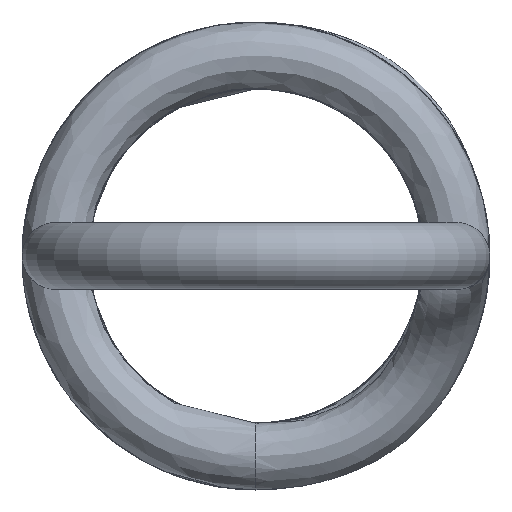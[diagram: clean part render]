
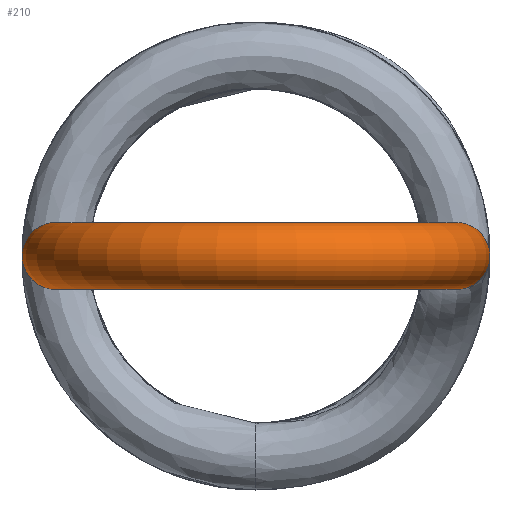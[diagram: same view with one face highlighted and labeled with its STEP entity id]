
A CAD part, front view. The second image highlights one B-rep face of the part: STEP entity #210.
In plain terms, the highlighted toroidal (fillet/blend) face has major radius 12 mm and minor radius 2 mm.
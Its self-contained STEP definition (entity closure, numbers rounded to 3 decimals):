
#15=TOROIDAL_SURFACE('',#248,12.,2.);
#22=CIRCLE('',#244,2.);
#23=CIRCLE('',#245,2.);
#24=CIRCLE('',#247,2.);
#25=CIRCLE('',#249,10.);
#40=FACE_OUTER_BOUND('',#51,.T.);
#51=EDGE_LOOP('',(#150,#151,#152,#153,#154));
#87=VERTEX_POINT('',#823);
#88=VERTEX_POINT('',#834);
#91=VERTEX_POINT('',#897);
#110=EDGE_CURVE('',#88,#87,#22,.T.);
#111=EDGE_CURVE('',#87,#88,#23,.T.);
#114=EDGE_CURVE('',#91,#91,#24,.T.);
#115=EDGE_CURVE('',#91,#88,#25,.T.);
#150=ORIENTED_EDGE('',*,*,#114,.F.);
#151=ORIENTED_EDGE('',*,*,#115,.T.);
#152=ORIENTED_EDGE('',*,*,#110,.T.);
#153=ORIENTED_EDGE('',*,*,#111,.T.);
#154=ORIENTED_EDGE('',*,*,#115,.F.);
#210=ADVANCED_FACE('',(#40),#15,.T.);
#244=AXIS2_PLACEMENT_3D('',#835,#270,#271);
#245=AXIS2_PLACEMENT_3D('',#836,#272,#273);
#247=AXIS2_PLACEMENT_3D('',#898,#276,#277);
#248=AXIS2_PLACEMENT_3D('',#899,#278,#279);
#249=AXIS2_PLACEMENT_3D('',#900,#280,#281);
#270=DIRECTION('center_axis',(0.,-1.,0.));
#271=DIRECTION('ref_axis',(-0.42,0.,-0.907));
#272=DIRECTION('center_axis',(0.,-1.,0.));
#273=DIRECTION('ref_axis',(-0.42,0.,-0.907));
#276=DIRECTION('center_axis',(0.166,0.986,0.));
#277=DIRECTION('ref_axis',(0.415,-0.07,-0.907));
#278=DIRECTION('center_axis',(0.,0.,
-1.));
#279=DIRECTION('ref_axis',(-0.083,-0.997,0.));
#280=DIRECTION('center_axis',(0.,0.,
1.));
#281=DIRECTION('ref_axis',(-0.083,-0.997,0.));
#823=CARTESIAN_POINT('',(11.159,-104.,-1.815));
#834=CARTESIAN_POINT('',(10.,-104.,0.));
#835=CARTESIAN_POINT('Origin',(12.,-104.,0.));
#836=CARTESIAN_POINT('Origin',(12.,-104.,0.));
#897=CARTESIAN_POINT('',(-9.861,-102.339,0.));
#898=CARTESIAN_POINT('Origin',(-11.833,-102.007,0.));
#899=CARTESIAN_POINT('Origin',(0.,-104.,0.));
#900=CARTESIAN_POINT('Origin',(0.,-104.,0.));
